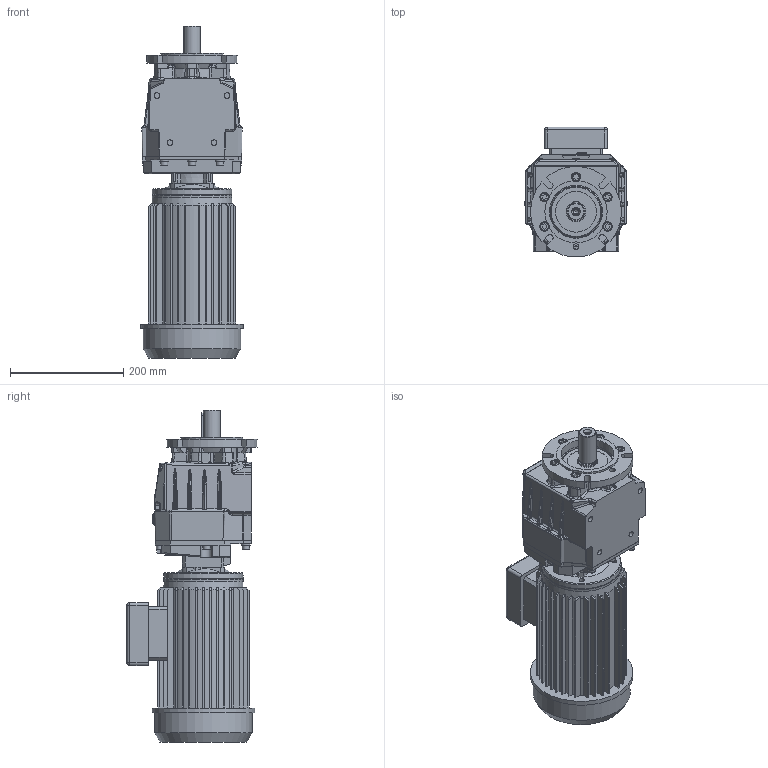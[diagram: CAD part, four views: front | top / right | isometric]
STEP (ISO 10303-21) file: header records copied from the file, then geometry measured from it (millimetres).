
FILE_DESCRIPTION( ( 'Unknown' ), '1' );
FILE_NAME( 'E:/services/configuratordownloads/customers/HYDROMEC/COASSIALI/download/B9C982EF664A69EE583D5299D9CE391/STEP/B9C982EF664A69EE583D5299D9CE391.3d.stp', 'Unknown', ( 'Unknown' ), ( 'Unknown' ), 'PSStep 10.1', 'Unknown', ' ' );
FILE_SCHEMA( ( 'AUTOMOTIVE_DESIGN { 1 0 10303 214 1 1 1 1 }' ) );
Length unit declared in the file: millimetre
Products named in the file (1): C518800
Bounding box: 181 x 229.72 x 586 mm (x, y, z)
Volume: 10717604 mm3; surface area: 624899.8 mm2
Topology: 1 solids, 27 shells, 1633 faces, 4116 edges, 2596 vertices
Faces by surface type: plane 837, cylinder 429, bspline 203, cone 97, torus 43, sphere 20, extrusion 4
Full cylindrical faces by diameter (mm): 6 x6, 6.5 x1, 6.647 x4, 6.8 x8, 7.262 x6, 8.376 x11, 8.5 x8, 9 x4, 10 x7, 10.106 x8, 10.5 x6, 11.3 x1, 11.445 x2, 12.75 x8, 13.5 x1, 15.8 x5, 16.5 x5, 18 x1, 19 x1, 22 x1, 28.6 x1, 30 x1, 35 x2, 35.5 x1, 47 x2, 72 x1, 93.5 x1, 95 x1, 106 x1, 140 x1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
Entity records: 79310 total; most frequent: CARTESIAN_POINT 28782, DIRECTION 7778, ORIENTED_EDGE 7622, EDGE_CURVE 3811, AXIS2_PLACEMENT_3D 2869, VERTEX_POINT 2504, VECTOR 2040, LINE 2036
